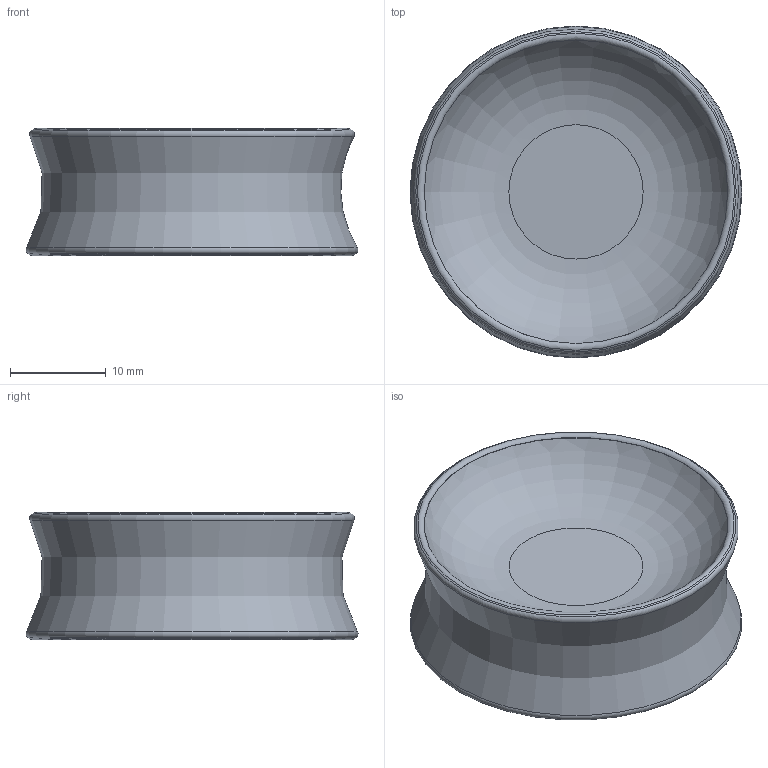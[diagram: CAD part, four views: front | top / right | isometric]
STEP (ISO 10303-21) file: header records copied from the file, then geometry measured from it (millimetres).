
FILE_DESCRIPTION(/* description */ ('STEP AP242','CAx-IF Rec.Pracs.---Representation and Presentation of Product Manufacturing Information (PMI)---4.0---2014-10-13','CAx-IF Rec.Pracs.---3D Tessellated Geometry---0.4---2014-09-14','2;1'),/* implementation_level */ '2;1');
FILE_NAME(/* name */ '669a3d102953b46e0edee2e5',/* time_stamp */ '2024-07-19T10:16:49Z',/* author */ (''),/* organization */ (''),/* preprocessor_version */ 'ST-DEVELOPER v20',/* originating_system */ ' ',/* authorisation */ ' ');
FILE_SCHEMA (('AP242_MANAGED_MODEL_BASED_3D_ENGINEERING_MIM_LF { 1 0 10303 442 1 1 4 }'));
Length unit declared in the file: metre
Products named in the file (1): Part 1
Bounding box: 34.59 x 34.59 x 13.24 mm (x, y, z)
Volume: 3897.1 mm3; surface area: 3587.6 mm2
Topology: 1 solids, 1 shells, 13 faces, 26 edges, 15 vertices
Faces by surface type: torus 9, plane 2, cone 2
Entity records: 276 total; most frequent: DIRECTION 52, CARTESIAN_POINT 38, AXIS2_PLACEMENT_3D 26, ORIENTED_EDGE 24, EDGE_LOOP 24, FACE_BOUND 24, ADVANCED_FACE 13, EDGE_CURVE 12
